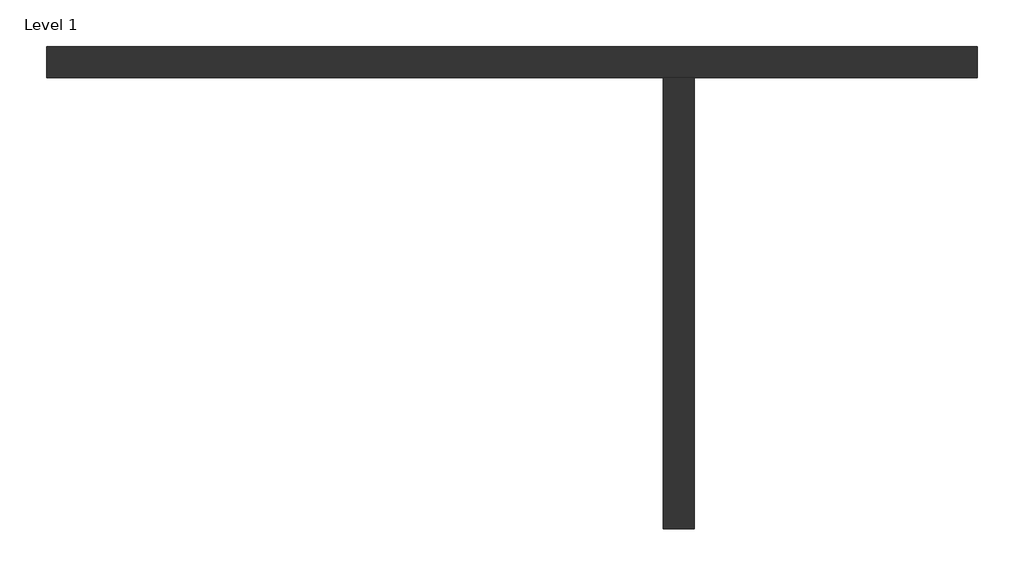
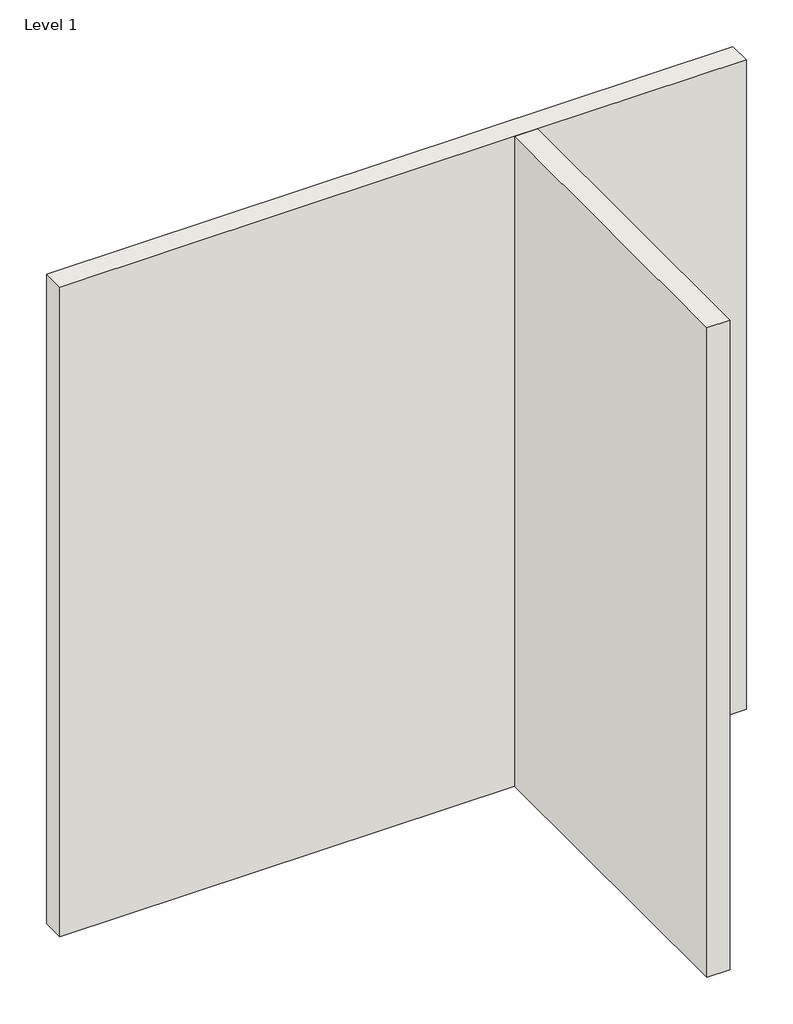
# One storey: 2 walls.
"""IFC4 building model written with IfcOpenShell, lengths in millimetres."""

from ifc_helpers import new_model, si_unit, origin, origin_with_axes, place, context, project, spatial, polyline, outline, extrude, faceted_brep, element, save

model = new_model("IFC4")

# Units and contexts
model_context = context("Model", 3, world=origin())
ifc_project = project(units=[si_unit("LENGTHUNIT", "METRE", prefix="MILLI")], contexts=[model_context])

# Site, building, storey
site = spatial("IfcSite", under=ifc_project)
building = spatial("IfcBuilding", under=site)
storey = spatial("IfcBuildingStorey", under=building, Name="Level 1", Elevation=0.0)

# Walls
placement = place(None, origin())
element("IfcWall", 1, ObjectType="Generic - 8\"", at=placement, inside=storey, context=model_context, shape_type="Brep", body=[
    faceted_brep([(-2311.6602902, -741.8838621, 0.0), (1726.9397098, -741.8838621, 0.0), (1930.1397098, -741.8838621, 0.0), (3784.3397098, -741.8838621, 0.0), (3784.3397098, -741.8838621, 6096.0), (1930.1397098, -741.8838621, 6096.0), (1726.9397098, -741.8838621, 6096.0), (-2311.6602902, -741.8838621, 6096.0), (-2311.6602902, -538.6838621, 0.0), (-2311.6602902, -538.6838621, 6096.0), (3784.3397098, -538.6838621, 6096.0), (3784.3397098, -538.6838621, 0.0)], [[[0, 1, 2, 3, 4, 5, 6, 7]], [[8, 9, 10, 11]], [[3, 2, 1, 0, 8, 11]], [[4, 3, 11, 10]], [[7, 6, 5, 4, 10, 9]], [[0, 7, 9, 8]]]),
])
element("IfcWall", 2, ObjectType="Generic - 8\"", at=placement, inside=storey, context=model_context, shape_type="SweptSolid", body=[
    extrude(outline(polyline([(1726.9397098, -3700.9838621), (1726.9397098, -741.8838621), (1930.1397098, -741.8838621), (1930.1397098, -3700.9838621), (1726.9397098, -3700.9838621)])), origin_with_axes(), (0.0, 0.0, 1.0), 6096.0),
])

save(model, "model.ifc")
